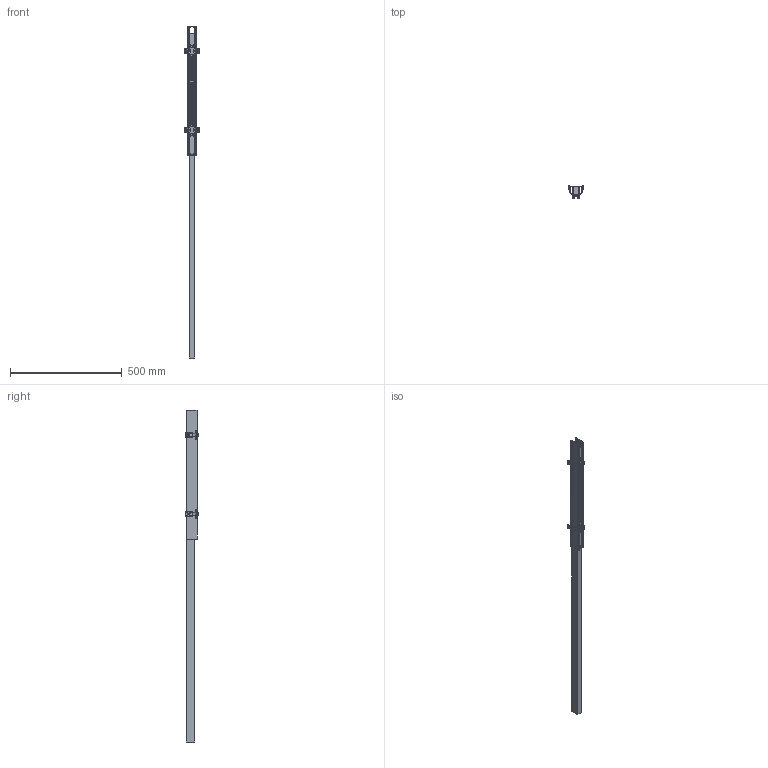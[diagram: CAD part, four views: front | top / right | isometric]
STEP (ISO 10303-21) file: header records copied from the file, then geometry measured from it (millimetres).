
FILE_DESCRIPTION(/* description */ ('Unknown'),/* implementation_level */ '2;1');
FILE_NAME(/* name */ '98435',/* time_stamp */ '2023-02-07T05:54:46-05:00',/* author */ ('Unknown'),/* organization */ ('Unknown'),/* preprocessor_version */ 'ST-DEVELOPER v18.1',/* originating_system */ 'Solid Edge',/* authorisation */ 'Unknown');
FILE_SCHEMA (('AUTOMOTIVE_DESIGN {1 0 10303 214 3 1 1}'));
Length unit declared in the file: millimetre
Products named in the file (8): CONTROCASSA A MOLLE; LED-PRO974; LED-RIV004; ATTACCO+MOLLE; LED-STA336; LED-MOL030; LED-OR130; LED-POL022
Assembly tree (18 placements, depth 3):
  CONTROCASSA A MOLLE
    LED-PRO974
    LED-RIV004  x9
    ATTACCO+MOLLE  x2
      LED-STA336
      LED-MOL030
      LED-OR130
    LED-POL022
Bounding box: 67.93 x 59 x 1484 mm (x, y, z)
Volume: 1560667 mm3; surface area: 366970.8 mm2
Topology: 21 solids, 21 shells, 1300 faces, 3191 edges, 1867 vertices
Faces by surface type: cylinder 562, plane 302, bspline 188, torus 143, sphere 105
Full cylindrical faces by diameter (mm): 1.5 x32, 3.2 x9, 3.3 x8, 3.5 x8, 6.5 x9
Entity records: 17704 total; most frequent: CARTESIAN_POINT 4878, DIRECTION 2661, ORIENTED_EDGE 2634, EDGE_CURVE 1317, AXIS2_PLACEMENT_3D 1019, VERTEX_POINT 845, LINE 623, VECTOR 623
